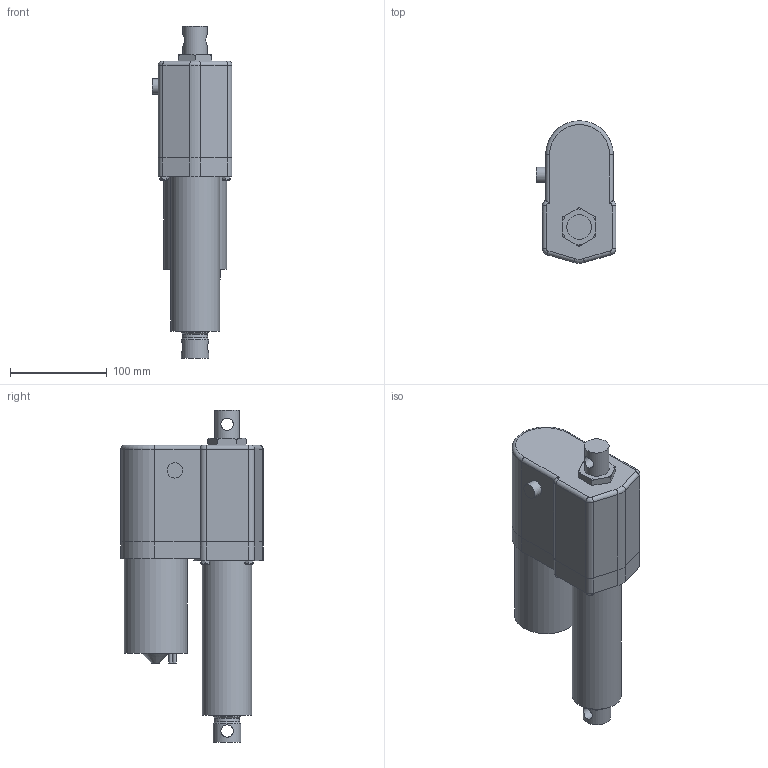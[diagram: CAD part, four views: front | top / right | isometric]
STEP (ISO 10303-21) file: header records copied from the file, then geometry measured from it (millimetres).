
FILE_DESCRIPTION (( 'STEP AP214' ), '1' );
FILE_NAME ('D12-05A5-04M0NPO-tollo.step', '2020-04-13T14:50:03', ( '' ), ( '' ), 'SwSTEP 2.0', 'SolidWorks 2010', '' );
FILE_SCHEMA (( 'AUTOMOTIVE_DESIGN' ));
Length unit declared in the file: millimetre
Products named in the file (6): Electrak-LA10-Motor-D12-05A5-04M0NPO-tollo_Electrak-LA10-Motor-D12-05A5-04M0NPO-tollo; Electrak-LA10-Rear-D12-05A5-04M0NPO-tollo_Electrak-LA10-Rear-D12-05A5-04M0NPO-tollo; Electrak-LA10-Tube-D12-05A5-04M0NPO-tollo_Electrak-LA10-Tube-D12-05A5-04M0NPO-tollo; Electrak-LA10-Rod-D12-05A5-04M0NPO-tollo_Electrak-LA10-Rod-D12-05A5-04M0NPO-tollo; Screw-M6S-M5-D12-05A5-04M0NPO-tollo_Screw-M6S-M5-D12-05A5-04M0NPO-tollo; D12-05A5-04M0NPO-tollo
Assembly tree (8 placements, depth 2):
  D12-05A5-04M0NPO-tollo
    Electrak-LA10-Rear-D12-05A5-04M0NPO-tollo_Electrak-LA10-Rear-D12-05A5-04M0NPO-tollo
    Screw-M6S-M5-D12-05A5-04M0NPO-tollo_Screw-M6S-M5-D12-05A5-04M0NPO-tollo  x4
    Electrak-LA10-Tube-D12-05A5-04M0NPO-tollo_Electrak-LA10-Tube-D12-05A5-04M0NPO-tollo
    Electrak-LA10-Rod-D12-05A5-04M0NPO-tollo_Electrak-LA10-Rod-D12-05A5-04M0NPO-tollo
    Electrak-LA10-Motor-D12-05A5-04M0NPO-tollo_Electrak-LA10-Motor-D12-05A5-04M0NPO-tollo
Bounding box: 82.72 x 147.19 x 343.4 mm (x, y, z)
Volume: 1827664.7 mm3; surface area: 178831.9 mm2
Topology: 8 solids, 8 shells, 193 faces, 439 edges, 283 vertices
Faces by surface type: plane 82, cylinder 77, cone 22, torus 12
Full cylindrical faces by diameter (mm): 4 x2, 4.126 x4, 4.8 x10, 5 x4, 7.878 x4, 12.8 x2, 16 x1, 25.4 x1, 28.6 x4, 51 x1, 65.3 x1
Entity records: 4139 total; most frequent: CARTESIAN_POINT 1139, DIRECTION 600, ORIENTED_EDGE 476, AXIS2_PLACEMENT_3D 251, EDGE_CURVE 238, EDGE_LOOP 188, VERTEX_POINT 174, FACE_OUTER_BOUND 149
